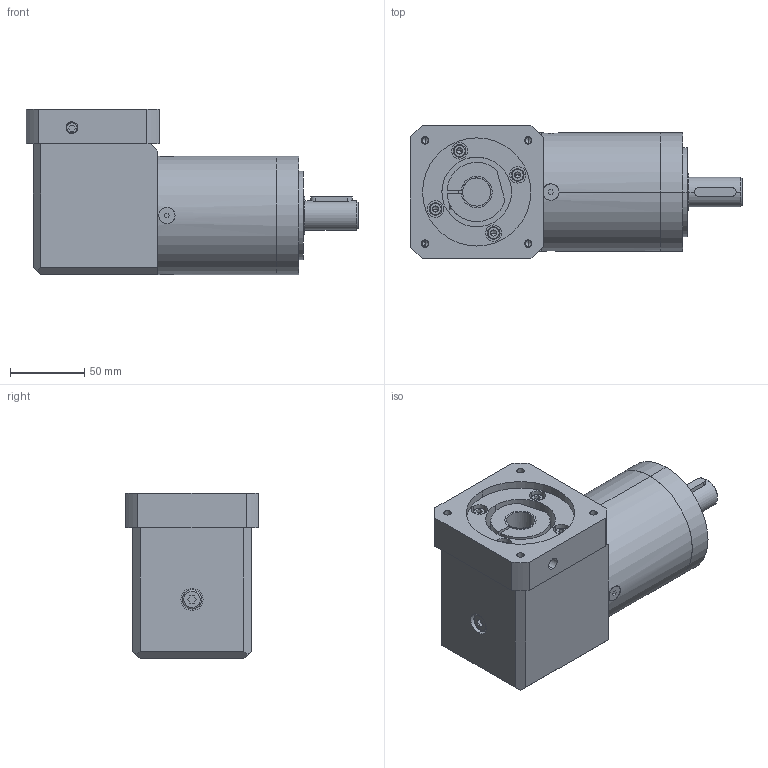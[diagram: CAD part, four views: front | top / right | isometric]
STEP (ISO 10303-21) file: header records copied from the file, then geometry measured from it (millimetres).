
FILE_DESCRIPTION (( 'STEP AP214' ), '1' );
FILE_NAME ('GBPNR-0803-CS-XXX-AA341-500.STEP', '2015-05-11T18:54:39', ( '' ), ( '' ), 'SwSTEP 2.0', 'SolidWorks 2015', '' );
FILE_SCHEMA (( 'AUTOMOTIVE_DESIGN' ));
Length unit declared in the file: inch
Products named in the file (4): socket head cap screw_am_B18.3.1M - 5 x 0.8 x 16 Hex SHCS -- 16SHX; AA341-500 adaptor plate for GBPN-080X series; WPLE80, 3 Stage, mb_3004; GBPNR-0803-CS-XXX-AA341-500
Assembly tree (6 placements, depth 2):
  GBPNR-0803-CS-XXX-AA341-500
    WPLE80, 3 Stage, mb_3004
    AA341-500 adaptor plate for GBPN-080X series
    socket head cap screw_am_B18.3.1M - 5 x 0.8 x 16 Hex SHCS -- 16SHX  x4
Bounding box: 224 x 90 x 111.7 mm (x, y, z)
Volume: 118485.8 mm3; surface area: 108652.7 mm2
Topology: 5 solids, 15 shells, 822 faces, 2067 edges, 1292 vertices
Faces by surface type: cone 342, cylinder 295, plane 171, torus 8, bspline 6
Entity records: 14169 total; most frequent: CARTESIAN_POINT 2781, DIRECTION 2220, ORIENTED_EDGE 1902, EDGE_CURVE 969, AXIS2_PLACEMENT_3D 873, VERTEX_POINT 623, VECTOR 474, LINE 474
